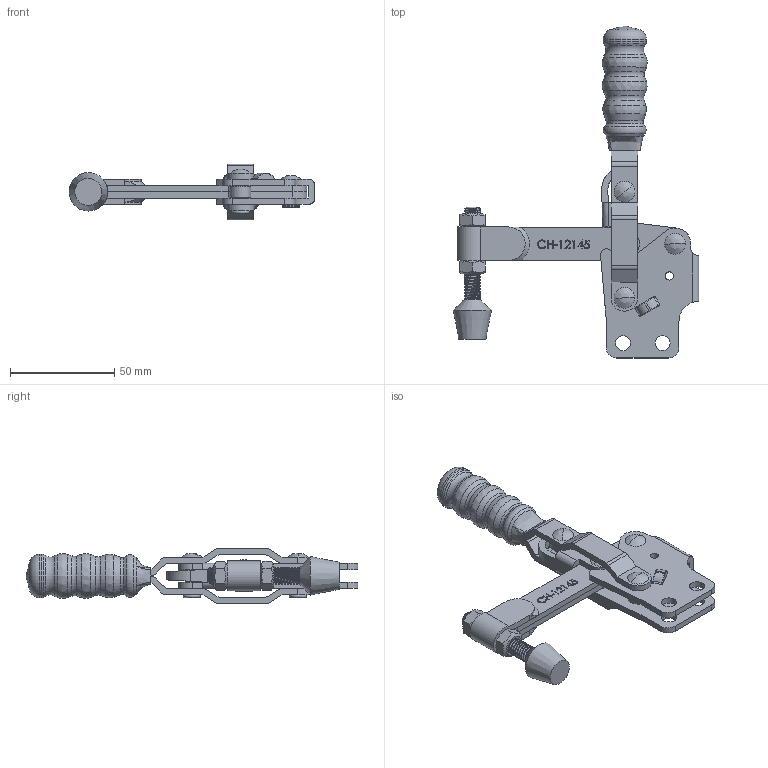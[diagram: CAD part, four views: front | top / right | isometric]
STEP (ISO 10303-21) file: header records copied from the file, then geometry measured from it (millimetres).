
FILE_DESCRIPTION(/* description */ ('STEP AP203'),/* implementation_level */ '2;1');
FILE_NAME(/* name */ 'D:\Vault_2016\Projekty\NASZ KATALOG\CLAMPTEK\STRONA\Vertical toggle clamp\CH-12145\CH-12145_ZAMKNIETY.stp',/* time_stamp */ '2019-01-18T12:26:18+01:00',/* author */ ('CADENGINEERING4'),/* organization */ ('Î¢ÈíÖÐ¹ú'),/* preprocessor_version */ 'ST-DEVELOPER v17.2',/* originating_system */ 'Autodesk Inventor 2019',/* authorisation */ '');
FILE_SCHEMA (('AUTOMOTIVE_DESIGN { 1 0 10303 214 3 1 1 }'));
Products named in the file (11): CH-12145_ZAMKNIETY; CH-12145-02 SHORT SOLID BAR_Ä¬ÈÏ_°
´¼Ó¹¤_; CH-FC-56212 SPINDLE SUPPLIED; CH-12130-06; CH-12145-01 STRAIGHT BASE; CH-12130-07; CH-FC-56212 Nut; CH-12130-05; CH-12130-04 CONNECTING-PLATE; CH-12130-03 STRAIGHT HANDLE; CH-12130-08
Assembly tree (13 placements, depth 2):
  CH-12145_ZAMKNIETY
    CH-12145-02 SHORT SOLID BAR_Ä¬ÈÏ_°
´¼Ó¹¤_
    CH-FC-56212 SPINDLE SUPPLIED
    CH-12130-06  x2
    CH-FC-56212 Nut  x2
    CH-12130-08  x2
    CH-12145-01 STRAIGHT BASE
    CH-12130-07
    CH-12130-05
    CH-12130-04 CONNECTING-PLATE
    CH-12130-03 STRAIGHT HANDLE
Bounding box: 118.17 x 159.56 x 26.8 mm (x, y, z)
Volume: 60295.6 mm3; surface area: 45665.7 mm2
Topology: 19 solids, 19 shells, 684 faces, 1907 edges, 1284 vertices
Faces by surface type: plane 301, bspline 178, cylinder 148, cone 32, torus 25
Full cylindrical faces by diameter (mm): 1.55 x1, 1.744 x1, 3.9 x2, 6.3 x6, 6.4 x20, 6.8 x1, 7.2 x4, 7.92 x32, 8.4 x2, 10 x1, 20.847 x1
Entity records: 45472 total; most frequent: CARTESIAN_POINT 29425, ORIENTED_EDGE 3584, DIRECTION 2699, EDGE_CURVE 1792, VERTEX_POINT 1212, LINE 973, VECTOR 973, AXIS2_PLACEMENT_3D 863
